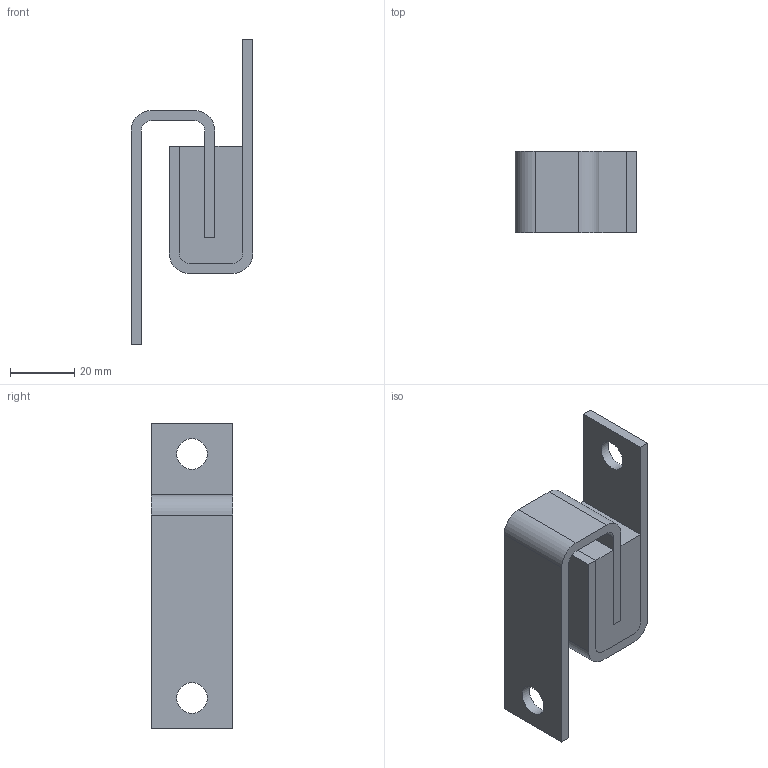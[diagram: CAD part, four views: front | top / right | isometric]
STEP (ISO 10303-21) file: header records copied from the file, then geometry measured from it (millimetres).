
FILE_DESCRIPTION(/* description */ (''),/* implementation_level */ '2;1');
FILE_NAME(/* name */ '\\Mleuckthor2\cad-proe_solids\WEBSITE FILES 05.22.13\STEP\WIC\WIC1.stp',/* time_stamp */ '2016-01-15T13:25:19-05:00',/* author */ ('rramoutar'),/* organization */ ('Mason Industries Inc.'),/* preprocessor_version */ 'ST-DEVELOPER v15.6',/* originating_system */ 'Autodesk Inventor 2015',/* authorisation */ '');
FILE_SCHEMA (('CONFIG_CONTROL_DESIGN'));
Length unit declared in the file: inch
Products named in the file (1): A-7323-3 WIC-1 SWAY BRACE
Bounding box: 38.1 x 25.4 x 95.25 mm (x, y, z)
Volume: 36257.1 mm3; surface area: 20415.6 mm2
Topology: 3 solids, 3 shells, 42 faces, 110 edges, 74 vertices
Faces by surface type: plane 30, cylinder 12
Full cylindrical faces by diameter (mm): 9.525 x2
Entity records: 1361 total; most frequent: CARTESIAN_POINT 221, DIRECTION 216, ORIENTED_EDGE 212, EDGE_CURVE 106, LINE 82, VECTOR 82, VERTEX_POINT 72, AXIS2_PLACEMENT_3D 67
